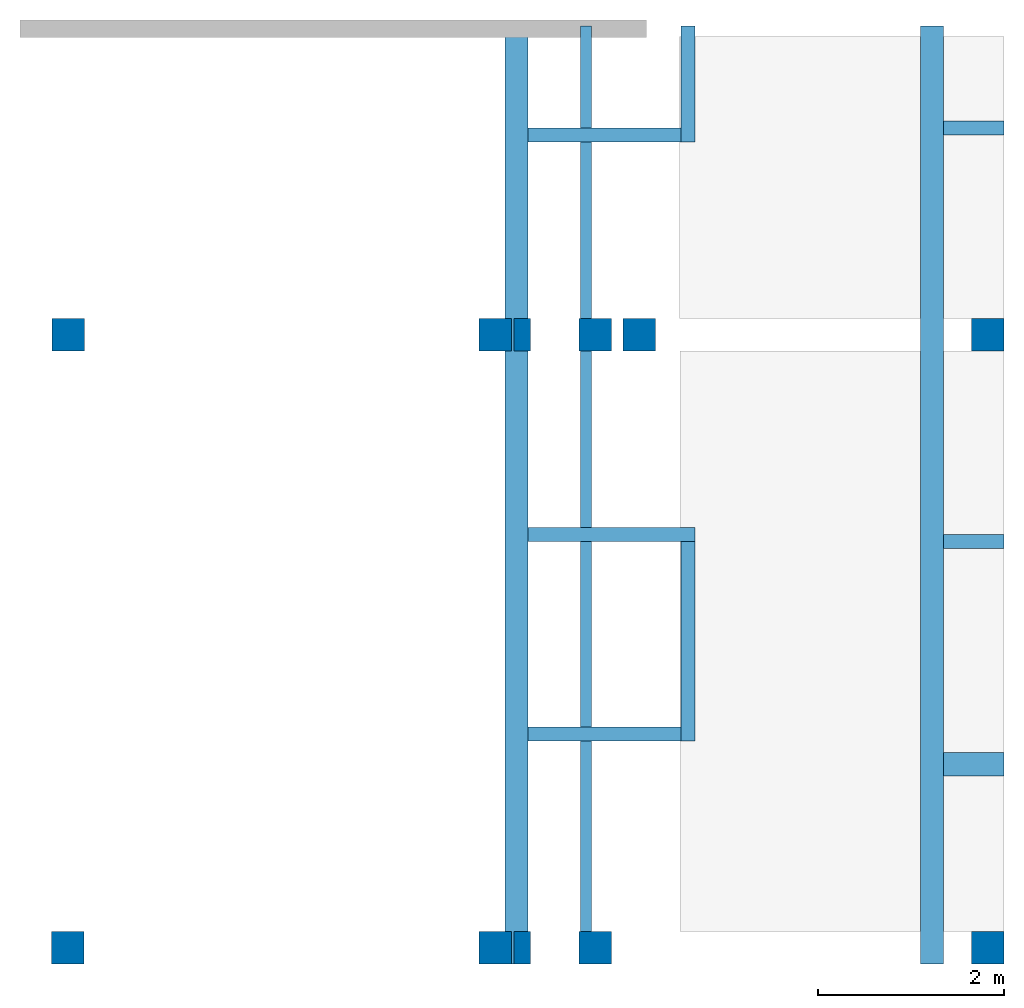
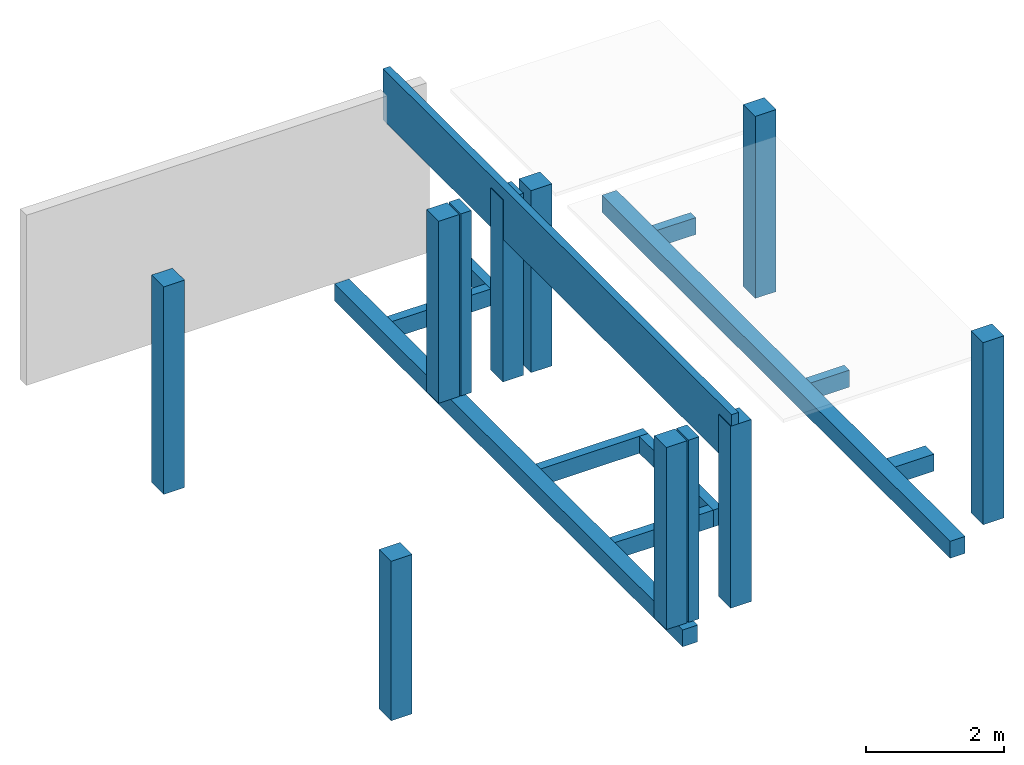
# One storey, part 1 of 3: 11 columns, 11 walls.
"""IFC2X3 building model written with IfcOpenShell, lengths in millimetres."""

from ifc_helpers import new_model, entity, si_unit, converted_unit, derived_unit, direction, frame, frame_2d, origin, origin_with_axes, origin_2d_with_axis, place, context, subcontext, project, spatial, rectangle, extrude, faceted_brep, source, transform, mapped, material, layer, layer_set, layer_usage, type_object, element, save


model = new_model("IFC2X3")

# Units and contexts
model_context = context("Model", 3, precision=0.01, world=origin(), true_north=direction((6.12303176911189e-17, 1.0)))
plan_context = context("Plan", 3, precision=1e-05, world=origin_with_axes())
body_context = subcontext(model_context, "Body", "Model", "MODEL_VIEW")
ifc_project = project(units=[converted_unit("PLANEANGLEUNIT", "DEGREE", entity("IfcPositiveLengthMeasure", 0.0174532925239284), si_unit("PLANEANGLEUNIT", "RADIAN"), dimensions=[0, 0, 0, 0, 0, 0, 0]), si_unit("AREAUNIT", "SQUARE_METRE"), si_unit("LENGTHUNIT", "METRE", prefix="MILLI"), si_unit("MASSUNIT", "GRAM", prefix="KILO"), si_unit("POWERUNIT", "WATT"), si_unit("PRESSUREUNIT", "PASCAL"), si_unit("FORCEUNIT", "NEWTON", prefix="KILO"), si_unit("ELECTRICVOLTAGEUNIT", "VOLT"), si_unit("ELECTRICCURRENTUNIT", "AMPERE"), si_unit("THERMODYNAMICTEMPERATUREUNIT", "DEGREE_CELSIUS"), si_unit("TIMEUNIT", "SECOND"), si_unit("VOLUMEUNIT", "CUBIC_METRE"), derived_unit("LINEARVELOCITYUNIT", [(si_unit("LENGTHUNIT", "METRE"), 1), (si_unit("TIMEUNIT", "SECOND"), -1)]), derived_unit("VOLUMETRICFLOWRATEUNIT", [(si_unit("VOLUMEUNIT", "CUBIC_METRE"), 1), (si_unit("TIMEUNIT", "SECOND"), -1)]), derived_unit("THERMALTRANSMITTANCEUNIT", [(si_unit("POWERUNIT", "WATT"), 1), (si_unit("THERMODYNAMICTEMPERATUREUNIT", "KELVIN"), -1), (si_unit("AREAUNIT", "SQUARE_METRE"), -1)]), derived_unit("SOUNDPRESSUREUNIT", [(si_unit("PRESSUREUNIT", "PASCAL"), 1)])], contexts=[model_context, plan_context])

# Site, building, storey
site_placement = place(None, frame((2314154.5009392, 1029894.10887124, 0.0), z_axis=(0.0, 0.0, 1.0), x_axis=(1.0, 0.0, 0.0)))
site = spatial("IfcSite", under=ifc_project, at=site_placement, Name="Default", CompositionType="ELEMENT")
building_placement = place(site_placement, origin_with_axes())
building = spatial("IfcBuilding", under=site, at=building_placement, CompositionType="ELEMENT")
storey_placement = place(building_placement, frame((0.0, 0.0, 10650.0), z_axis=(0.0, 0.0, 1.0), x_axis=(1.0, 0.0, 0.0)))
storey = spatial("IfcBuildingStorey", under=building, at=storey_placement, Name="XX - C+10,65 TB E1", CompositionType="ELEMENT", Elevation=10650.0)

# Columns
ifc_material_1 = material(Name="<Unnamed>")
column_type_1 = type_object("IfcColumnType", Name="NSW Søyle - Betong firkantet:350 x 350 mm", PredefinedType="COLUMN", material=ifc_material_1)
shared_shape_1 = source(origin(), body_context, "Body", "SweptSolid", [
    extrude(rectangle(XDim=350.000000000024, YDim=349.999999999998, at=frame_2d((0.0, 4.33431068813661e-12), x_axis=(1.0, 0.0))), frame((312166.13394735, -43249.4514097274, 10650.0), z_axis=(0.0, 0.0, 1.0), x_axis=(-1.0, 0.0, 0.0)), (0.0, 0.0, 1.0), 3220.0),
])
column_1_placement = place(storey_placement, frame((0.0, 0.0, -10650.0), z_axis=(0.0, 0.0, 1.0), x_axis=(1.0, 0.0, 0.0)))
element("IfcColumn", 1, at=column_1_placement, inside=storey, type_object=column_type_1, material=ifc_material_1, Name="NSW Søyle - Betong firkantet:350 x 350 mm", ObjectType="NSW Søyle - Betong firkantet:350 x 350 mm", context=body_context, shape_type="MappedRepresentation", body=[
    mapped(shared_shape_1, transform((0.0, 0.0, 0.0), scale=1.0)),
])
column_type_2 = type_object("IfcColumnType", Name="NSW Søyle - Betong firkantet:350 x 350 mm", PredefinedType="COLUMN", material=ifc_material_1)
shared_shape_2 = source(origin(), body_context, "Body", "SweptSolid", [
    extrude(rectangle(XDim=350.000000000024, YDim=349.999999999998, at=origin_2d_with_axis()), frame((312166.133944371, -36649.4514097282, 10650.0), z_axis=(0.0, 0.0, 1.0), x_axis=(-1.0, 0.0, 0.0)), (0.0, 0.0, 1.0), 3220.0),
])
column_2_placement = place(storey_placement, frame((0.0, 0.0, -10650.0), z_axis=(0.0, 0.0, 1.0), x_axis=(1.0, 0.0, 0.0)))
element("IfcColumn", 2, at=column_2_placement, inside=storey, type_object=column_type_2, material=ifc_material_1, Name="NSW Søyle - Betong firkantet:350 x 350 mm", ObjectType="NSW Søyle - Betong firkantet:350 x 350 mm", context=body_context, shape_type="MappedRepresentation", body=[
    mapped(shared_shape_2, transform((0.0, 0.0, 0.0), scale=1.0)),
])
column_type_3 = type_object("IfcColumnType", Name="NSW Søyle - Betong firkantet:350 x 350 mm", PredefinedType="COLUMN", material=ifc_material_1)
shared_shape_3 = source(origin(), body_context, "Body", "SweptSolid", [
    extrude(rectangle(XDim=349.99999999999, YDim=349.999999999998, at=frame_2d((-1.73230318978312e-11, -4.33431068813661e-12), x_axis=(1.0, 0.0))), frame((307941.13394735, -43249.4514097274, 10650.0), z_axis=(0.0, 0.0, 1.0), x_axis=(-1.0, 0.0, 0.0)), (0.0, 0.0, 1.0), 3220.0),
])
column_3_placement = place(storey_placement, frame((0.0, 0.0, -10650.0), z_axis=(0.0, 0.0, 1.0), x_axis=(1.0, 0.0, 0.0)))
element("IfcColumn", 3, at=column_3_placement, inside=storey, type_object=column_type_3, material=ifc_material_1, Name="NSW Søyle - Betong firkantet:350 x 350 mm", ObjectType="NSW Søyle - Betong firkantet:350 x 350 mm", context=body_context, shape_type="MappedRepresentation", body=[
    mapped(shared_shape_3, transform((0.0, 0.0, 0.0), scale=1.0)),
])
column_type_4 = type_object("IfcColumnType", Name="NSW Søyle - Betong firkantet:350 x 350 mm", PredefinedType="COLUMN", material=ifc_material_1)
shared_shape_4 = source(origin(), body_context, "Body", "SweptSolid", [
    extrude(rectangle(XDim=349.99999999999, YDim=349.999999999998, at=frame_2d((-1.73230318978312e-11, 0.0), x_axis=(1.0, 0.0))), frame((307941.13394735, -36649.4514097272, 10650.0), z_axis=(0.0, 0.0, 1.0), x_axis=(-1.0, 0.0, 0.0)), (0.0, 0.0, 1.0), 3220.0),
])
column_4_placement = place(storey_placement, frame((0.0, 0.0, -10650.0), z_axis=(0.0, 0.0, 1.0), x_axis=(1.0, 0.0, 0.0)))
element("IfcColumn", 4, at=column_4_placement, inside=storey, type_object=column_type_4, material=ifc_material_1, Name="NSW Søyle - Betong firkantet:350 x 350 mm", ObjectType="NSW Søyle - Betong firkantet:350 x 350 mm", context=body_context, shape_type="MappedRepresentation", body=[
    mapped(shared_shape_4, transform((0.0, 0.0, 0.0), scale=1.0)),
])
column_type_5 = type_object("IfcColumnType", Name="NSW Søyle - Betong firkantet:350 x 350 mm", PredefinedType="COLUMN", material=ifc_material_1)
shared_shape_5 = source(origin(), body_context, "Body", "SweptSolid", [
    extrude(rectangle(XDim=349.99999999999, YDim=349.999999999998, at=frame_2d((-1.73230318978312e-11, 0.0), x_axis=(1.0, 0.0))), frame((308416.13394735, -36649.4514097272, 10650.0), z_axis=(0.0, 0.0, 1.0), x_axis=(-1.0, 0.0, 0.0)), (0.0, 0.0, 1.0), 3220.0),
])
column_5_placement = place(storey_placement, frame((0.0, 0.0, -10650.0), z_axis=(0.0, 0.0, 1.0), x_axis=(1.0, 0.0, 0.0)))
element("IfcColumn", 5, at=column_5_placement, inside=storey, type_object=column_type_5, material=ifc_material_1, Name="NSW Søyle - Betong firkantet:350 x 350 mm", ObjectType="NSW Søyle - Betong firkantet:350 x 350 mm", context=body_context, shape_type="MappedRepresentation", body=[
    mapped(shared_shape_5, transform((0.0, 0.0, 0.0), scale=1.0)),
])
ifc_material_2 = material(Name="_NSW Betong")
column_type_6 = type_object("IfcColumnType", Name="NSW Søyle - Betong rektangulær:350 x 175 mm", PredefinedType="COLUMN", material=ifc_material_2)
shared_shape_6 = source(origin(), body_context, "Body", "SweptSolid", [
    extrude(rectangle(XDim=175.000000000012, YDim=349.999999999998, at=frame_2d((0.0, -4.33431068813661e-12), x_axis=(1.0, 0.0))), frame((307153.633944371, -43249.4514097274, 10650.0), z_axis=(0.0, 0.0, 1.0), x_axis=(-1.0, 0.0, 0.0)), (0.0, 0.0, 1.0), 3220.0),
])
column_6_placement = place(storey_placement, frame((0.0, 0.0, -10650.0), z_axis=(0.0, 0.0, 1.0), x_axis=(1.0, 0.0, 0.0)))
element("IfcColumn", 6, at=column_6_placement, inside=storey, type_object=column_type_6, material=ifc_material_2, Name="NSW Søyle - Betong rektangulær:350 x 175 mm", ObjectType="NSW Søyle - Betong rektangulær:350 x 175 mm", context=body_context, shape_type="MappedRepresentation", body=[
    mapped(shared_shape_6, transform((0.0, 0.0, 0.0), scale=1.0)),
])
column_type_7 = type_object("IfcColumnType", Name="NSW Søyle - Betong firkantet:350 x 350 mm", PredefinedType="COLUMN", material=ifc_material_1)
shared_shape_7 = source(origin(), body_context, "Body", "SweptSolid", [
    extrude(rectangle(XDim=349.99999999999, YDim=349.999999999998, at=frame_2d((-1.73230318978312e-11, 0.0), x_axis=(1.0, 0.0))), frame((306866.13394735, -36649.4514097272, 10650.0), z_axis=(0.0, 0.0, 1.0), x_axis=(-1.0, 0.0, 0.0)), (0.0, 0.0, 1.0), 3220.0),
])
column_7_placement = place(storey_placement, frame((0.0, 0.0, -10650.0), z_axis=(0.0, 0.0, 1.0), x_axis=(1.0, 0.0, 0.0)))
element("IfcColumn", 7, at=column_7_placement, inside=storey, type_object=column_type_7, material=ifc_material_1, Name="NSW Søyle - Betong firkantet:350 x 350 mm", ObjectType="NSW Søyle - Betong firkantet:350 x 350 mm", context=body_context, shape_type="MappedRepresentation", body=[
    mapped(shared_shape_7, transform((0.0, 0.0, 0.0), scale=1.0)),
])
column_type_8 = type_object("IfcColumnType", Name="NSW Søyle - Betong firkantet:350 x 350 mm", PredefinedType="COLUMN", material=ifc_material_1)
shared_shape_8 = source(origin(), body_context, "Body", "SweptSolid", [
    extrude(rectangle(XDim=349.99999999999, YDim=349.999999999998, at=frame_2d((1.73230318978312e-11, -4.33431068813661e-12), x_axis=(1.0, 0.0))), frame((306866.13394735, -43249.4514097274, 10650.0), z_axis=(0.0, 0.0, 1.0), x_axis=(-1.0, 0.0, 0.0)), (0.0, 0.0, 1.0), 3220.0),
])
column_8_placement = place(storey_placement, frame((0.0, 0.0, -10650.0), z_axis=(0.0, 0.0, 1.0), x_axis=(1.0, 0.0, 0.0)))
element("IfcColumn", 8, at=column_8_placement, inside=storey, type_object=column_type_8, material=ifc_material_1, Name="NSW Søyle - Betong firkantet:350 x 350 mm", ObjectType="NSW Søyle - Betong firkantet:350 x 350 mm", context=body_context, shape_type="MappedRepresentation", body=[
    mapped(shared_shape_8, transform((0.0, 0.0, 0.0), scale=1.0)),
])
column_type_9 = type_object("IfcColumnType", Name="NSW Søyle - Betong rektangulær:350 x 175 mm", PredefinedType="COLUMN", material=ifc_material_2)
shared_shape_9 = source(origin(), body_context, "Body", "SweptSolid", [
    extrude(rectangle(XDim=175.000000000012, YDim=349.999999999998, at=frame_2d((3.46460637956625e-11, 0.0), x_axis=(1.0, 0.0))), frame((307153.633944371, -36649.4514097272, 10650.0), z_axis=(0.0, 0.0, 1.0), x_axis=(-1.0, 0.0, 0.0)), (0.0, 0.0, 1.0), 3220.0),
])
column_9_placement = place(storey_placement, frame((0.0, 0.0, -10650.0), z_axis=(0.0, 0.0, 1.0), x_axis=(1.0, 0.0, 0.0)))
element("IfcColumn", 9, at=column_9_placement, inside=storey, type_object=column_type_9, material=ifc_material_2, Name="NSW Søyle - Betong rektangulær:350 x 175 mm", ObjectType="NSW Søyle - Betong rektangulær:350 x 175 mm", context=body_context, shape_type="MappedRepresentation", body=[
    mapped(shared_shape_9, transform((0.0, 0.0, 0.0), scale=1.0)),
])
column_type_10 = type_object("IfcColumnType", Name="NSW Søyle - Betong firkantet:350 x 350 mm", PredefinedType="COLUMN", material=ifc_material_1)
shared_shape_10 = source(origin(), body_context, "Body", "SweptSolid", [
    extrude(rectangle(XDim=349.99999999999, YDim=349.999999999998, at=frame_2d((-1.73230318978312e-11, -4.33431068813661e-12), x_axis=(1.0, 0.0))), frame((302263.13395331, -43249.4514097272, 10650.0), z_axis=(0.0, 0.0, 1.0), x_axis=(-1.0, 0.0, 0.0)), (0.0, 0.0, 1.0), 2820.0),
])
column_10_placement = place(storey_placement, frame((0.0, 0.0, -10650.0), z_axis=(0.0, 0.0, 1.0), x_axis=(1.0, 0.0, 0.0)))
element("IfcColumn", 10, at=column_10_placement, inside=storey, type_object=column_type_10, material=ifc_material_1, Name="NSW Søyle - Betong firkantet:350 x 350 mm", ObjectType="NSW Søyle - Betong firkantet:350 x 350 mm", context=body_context, shape_type="MappedRepresentation", body=[
    mapped(shared_shape_10, transform((0.0, 0.0, 0.0), scale=1.0)),
])
column_type_11 = type_object("IfcColumnType", Name="NSW Søyle - Betong firkantet:350 x 350 mm", PredefinedType="COLUMN", material=ifc_material_1)
column_11_placement = place(storey_placement, frame((0.0, 0.0, -10650.0), z_axis=(0.0, 0.0, 1.0), x_axis=(1.0, 0.0, 0.0)))
element("IfcColumn", 11, at=column_11_placement, inside=storey, type_object=column_type_11, Name="NSW Søyle - Betong firkantet:350 x 350 mm", ObjectType="NSW Søyle - Betong firkantet:350 x 350 mm", context=body_context, shape_type="Brep", body=[
    faceted_brep([(302442.799601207, -36824.4514097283, 14320.0), (302442.799601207, -36474.4514097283, 14320.0), (302442.799601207, -36474.4514097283, 10650.0), (302442.799601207, -36824.4514097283, 10650.0), (302092.799601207, -36474.4514097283, 14320.0), (302092.799601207, -36474.4514097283, 10650.0), (302092.799601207, -36824.4514097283, 14320.0), (302092.799601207, -36824.4514097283, 10650.0)], [[[0, 1, 2, 3]], [[1, 4, 5, 2]], [[4, 6, 7, 5]], [[6, 0, 3, 7]], [[3, 2, 5, 7]], [[6, 4, 1, 0]]], orient=[[False], [False], [False], [False], [False], [False]]),
])

# Walls
ifc_material_3 = material(Name="Existing - Bridget key")
ifc_layer_1 = layer(ifc_material_3, 250.0)
ifc_layer_set_1 = layer_set([ifc_layer_1], Name="Basic Wall:V_Existing 250mm")
wall_type_1 = type_object("IfcWallType", Name="Basic Wall:V_Existing 250mm", PredefinedType="STANDARD", material=ifc_layer_set_1)
wall_1_placement = place(storey_placement, frame((311566.133942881, 18075.5485910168, -400.0), z_axis=(0.0, 0.0, 1.0), x_axis=(0.0, -1.0, 0.0)))
element("IfcWall", 12, at=wall_1_placement, inside=storey, type_object=wall_type_1, Name="Basic Wall:V_Existing 250mm", ObjectType="Basic Wall:V_Existing 250mm", context=body_context, shape_type="Brep", body=[
    faceted_brep([(61500.0000007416, 124.999999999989, 0.0), (61500.0000007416, 124.999999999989, 300.000000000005), (51403.0000007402, 124.999999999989, 300.000000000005), (51403.0000007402, 124.999999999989, 0.0), (51403.0000007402, -124.999999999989, 0.0), (51403.0000007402, -124.999999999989, 300.000000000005), (61500.0000007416, -124.999999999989, 300.000000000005), (61500.0000007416, -124.999999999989, 0.0)], [[[0, 1, 2, 3]], [[4, 5, 6, 7]], [[7, 0, 3, 4]], [[1, 6, 5, 2]], [[5, 4, 3, 2]], [[7, 6, 1, 0]]], orient=[[False], [False], [False], [False], [False], [False]]),
])
wall_2_placement = place(storey_placement, frame((307091.133942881, -30224.4514097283, -400.0), z_axis=(0.0, 0.0, 1.0), x_axis=(0.0, -1.0, 0.0)))
element("IfcWall", 13, at=wall_2_placement, inside=storey, type_object=wall_type_1, Name="Basic Wall:V_Existing 250mm", ObjectType="Basic Wall:V_Existing 250mm", context=body_context, shape_type="Brep", body=[
    faceted_brep([(13199.9999999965, 124.999999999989, 0.0), (13199.9999999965, 124.999999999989, 300.000000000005), (3102.99999999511, 124.999999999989, 300.000000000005), (3102.99999999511, 124.999999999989, 0.0), (3102.99999999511, -124.999999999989, 0.0), (3102.99999999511, -124.999999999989, 300.000000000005), (13199.9999999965, -124.999999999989, 300.000000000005), (13199.9999999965, -124.999999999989, 0.0)], [[[0, 1, 2, 3]], [[4, 5, 6, 7]], [[7, 0, 3, 4]], [[1, 6, 5, 2]], [[5, 4, 3, 2]], [[7, 6, 1, 0]]], orient=[[False], [False], [False], [False], [False], [False]]),
])
wall_3_placement = place(storey_placement, frame((311691.133942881, -41274.4514086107, -400.0), z_axis=(0.0, 0.0, 1.0), x_axis=(1.0, 0.0, 0.0)))
element("IfcWall", 14, at=wall_3_placement, inside=storey, type_object=wall_type_1, Name="Basic Wall:V_Existing 250mm", ObjectType="Basic Wall:V_Existing 250mm", context=body_context, shape_type="Brep", body=[
    faceted_brep([(650.000004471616, 124.999999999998, 0.0), (650.000004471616, 124.999999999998, 300.000000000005), (0.0, 124.999999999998, 300.000000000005), (0.0, 124.999999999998, 0.0), (0.0, -124.999999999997, 300.000000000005), (0.0, -124.999999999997, 0.0), (650.000004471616, -124.999999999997, 300.000000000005), (650.000004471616, -124.999999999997, 0.0)], [[[0, 1, 2, 3]], [[3, 2, 4, 5]], [[6, 7, 5, 4]], [[7, 0, 3, 5]], [[1, 6, 4, 2]], [[7, 6, 1, 0]]], orient=[[False], [False], [False], [False], [False], [False]]),
])
ifc_material_4 = material(Name="Værnes_Gipsplate")
ifc_layer_2 = layer(ifc_material_4, 13.0)
ifc_material_5 = material(Name="Værnes_Stender")
ifc_layer_3 = layer(ifc_material_5, 95.0)
ifc_layer_4 = layer(ifc_material_4, 13.0)
ifc_layer_set_2 = layer_set([ifc_layer_2, ifc_layer_3, ifc_layer_4], Name="Basic Wall:TB_SKJØRT 95mm")
wall_type_2 = type_object("IfcWallType", Name="Basic Wall:TB_SKJØRT 95mm", PredefinedType="STANDARD", material=ifc_layer_set_2)
wall_4_placement = place(storey_placement, frame((307841.133947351, -63024.4514097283, 2513.0), z_axis=(0.0, 0.0, 1.0), x_axis=(0.0, 1.0, 0.0)))
element("IfcWall", 15, at=wall_4_placement, inside=storey, type_object=wall_type_2, Name="Basic Wall:TB_SKJØRT 95mm", ObjectType="Basic Wall:TB_SKJØRT 95mm", context=body_context, shape_type="Brep", body=[
    faceted_brep([(19600.0000000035, 60.4999999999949, 907.008972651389), (19600.0000000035, 60.4999999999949, 0.0), (29697.0000000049, 60.4999999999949, 0.0), (29697.0000000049, 60.4999999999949, 907.00897265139), (29697.0000000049, -60.4999999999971, 907.008972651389), (29697.0000000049, -60.4999999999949, 0.0), (19600.0000000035, -60.4999999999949, 0.0), (19600.0000000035, -60.5000000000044, 907.008972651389)], [[[0, 1, 2, 3]], [[4, 5, 6, 7]], [[5, 2, 1, 6]], [[7, 0, 3, 4]], [[5, 4, 3, 2]], [[7, 6, 1, 0]]], orient=[[False], [False], [False], [False], [False], [False]]),
])
ifc_layer_5 = layer(ifc_material_3, 150.0)
ifc_layer_set_3 = layer_set([ifc_layer_5], Name="Basic Wall:V_Existing 150mm")
ifc_layer_usage = layer_usage(ifc_layer_set_3, "AXIS2", "NEGATIVE", 75.0)
wall_type_3 = type_object("IfcWallType", Name="Basic Wall:V_Existing 150mm", PredefinedType="STANDARD", material=ifc_layer_set_3)
wall_5_placement = place(storey_placement, frame((308866.133944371, -34499.4514127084, -400.0), z_axis=(0.0, 0.0, 1.0), x_axis=(-1.0, 0.0, 0.0)))
element("IfcWallStandardCase", 16, at=wall_5_placement, inside=storey, type_object=wall_type_3, material=ifc_layer_usage, Name="Basic Wall:V_Existing 150mm", ObjectType="Basic Wall:V_Existing 150mm", context=body_context, shape_type="SweptSolid", body=[
    extrude(rectangle(XDim=1650.00000149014, YDim=150.000000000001, at=frame_2d((825.000000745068, 0.0), x_axis=(-1.0, 0.0))), origin(), (0.0, 0.0, 1.0), 300.000000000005),
])
wall_6_placement = place(storey_placement, frame((307216.133942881, -38799.4514127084, -400.0), z_axis=(0.0, 0.0, 1.0), x_axis=(1.0, 0.0, 0.0)))
element("IfcWallStandardCase", 17, at=wall_6_placement, inside=storey, type_object=wall_type_3, material=ifc_layer_usage, Name="Basic Wall:V_Existing 150mm", ObjectType="Basic Wall:V_Existing 150mm", context=body_context, shape_type="SweptSolid", body=[
    extrude(rectangle(XDim=1800.00000149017, YDim=150.000000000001, at=frame_2d((900.000000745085, 0.0), x_axis=(-1.0, 0.0))), origin(), (0.0, 0.0, 1.0), 300.000000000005),
])
wall_7_placement = place(storey_placement, frame((308941.133944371, -38874.4514127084, -400.0), z_axis=(0.0, 0.0, 1.0), x_axis=(0.0, -1.0, 0.0)))
element("IfcWallStandardCase", 18, at=wall_7_placement, inside=storey, type_object=wall_type_3, material=ifc_layer_usage, Name="Basic Wall:V_Existing 150mm", ObjectType="Basic Wall:V_Existing 150mm", context=body_context, shape_type="SweptSolid", body=[
    extrude(rectangle(XDim=2150.00000000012, YDim=150.000000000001, at=frame_2d((1075.00000000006, 0.0), x_axis=(-1.0, 0.0))), origin(), (0.0, 0.0, 1.0), 300.000000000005),
])
wall_8_placement = place(storey_placement, frame((308866.133944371, -40949.4514127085, -400.0), z_axis=(0.0, 0.0, 1.0), x_axis=(-1.0, 0.0, 0.0)))
element("IfcWallStandardCase", 19, at=wall_8_placement, inside=storey, type_object=wall_type_3, material=ifc_layer_usage, Name="Basic Wall:V_Existing 150mm", ObjectType="Basic Wall:V_Existing 150mm", context=body_context, shape_type="SweptSolid", body=[
    extrude(rectangle(XDim=1650.00000149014, YDim=150.000000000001, at=frame_2d((825.000000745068, 0.0), x_axis=(-1.0, 0.0))), origin(), (0.0, 0.0, 1.0), 300.000000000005),
])
wall_9_placement = place(storey_placement, frame((308941.133944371, -32424.4514127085, -400.0), z_axis=(0.0, 0.0, 1.0), x_axis=(0.0, -1.0, 0.0)))
element("IfcWall", 20, at=wall_9_placement, inside=storey, type_object=wall_type_3, Name="Basic Wall:V_Existing 150mm", ObjectType="Basic Wall:V_Existing 150mm", context=body_context, shape_type="Brep", body=[
    faceted_brep([(2149.99999999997, -75.0000000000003, 0.0), (2149.99999999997, -75.0000000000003, 300.000000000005), (2149.99999999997, 75.0000000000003, 300.000000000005), (2149.99999999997, 75.0000000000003, 0.0), (902.999997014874, 75.0000000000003, 300.000000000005), (902.999997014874, 75.0000000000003, 0.0), (902.999997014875, -75.0000000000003, 0.0), (902.999997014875, -75.0000000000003, 300.000000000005)], [[[0, 1, 2, 3]], [[4, 5, 3, 2]], [[6, 7, 1, 0]], [[5, 6, 0, 3]], [[7, 4, 2, 1]], [[7, 6, 5, 4]]], orient=[[False], [False], [False], [False], [False], [False]]),
])
wall_10_placement = place(storey_placement, frame((313091.133947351, -34424.4514097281, -400.0), z_axis=(0.0, 0.0, 1.0), x_axis=(-1.0, 0.0, 0.0)))
element("IfcWall", 21, at=wall_10_placement, inside=storey, type_object=wall_type_3, Name="Basic Wall:V_Existing 150mm", ObjectType="Basic Wall:V_Existing 150mm", context=body_context, shape_type="Brep", body=[
    faceted_brep([(1400.00000447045, -75.0000000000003, 0.0), (1400.00000447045, -75.0000000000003, 300.000000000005), (1400.00000447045, 75.0000000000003, 300.000000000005), (1400.00000447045, 75.0000000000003, 0.0), (749.999999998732, 75.0000000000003, 300.000000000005), (749.999999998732, 75.0000000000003, 0.0), (749.999999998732, -75.0000000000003, 0.0), (749.999999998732, -75.0000000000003, 300.000000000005)], [[[0, 1, 2, 3]], [[4, 5, 3, 2]], [[6, 7, 1, 0]], [[5, 6, 0, 3]], [[7, 4, 2, 1]], [[7, 6, 5, 4]]], orient=[[False], [False], [False], [False], [False], [False]]),
])
wall_11_placement = place(storey_placement, frame((311691.133942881, -38874.4514097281, -400.0), z_axis=(0.0, 0.0, 1.0), x_axis=(1.0, 0.0, 0.0)))
element("IfcWall", 22, at=wall_11_placement, inside=storey, type_object=wall_type_3, Name="Basic Wall:V_Existing 150mm", ObjectType="Basic Wall:V_Existing 150mm", context=body_context, shape_type="Brep", body=[
    faceted_brep([(650.000004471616, 75.0000000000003, 0.0), (650.000004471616, 75.0000000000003, 300.000000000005), (0.0, 75.0000000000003, 300.000000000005), (0.0, 75.0000000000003, 0.0), (0.0, -75.0000000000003, 300.000000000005), (0.0, -75.0000000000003, 0.0), (650.000004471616, -75.0000000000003, 300.000000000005), (650.000004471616, -75.0000000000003, 0.0)], [[[0, 1, 2, 3]], [[3, 2, 4, 5]], [[6, 7, 5, 4]], [[7, 0, 3, 5]], [[1, 6, 4, 2]], [[7, 6, 1, 0]]], orient=[[False], [False], [False], [False], [False], [False]]),
])

save(model, "model.ifc")
